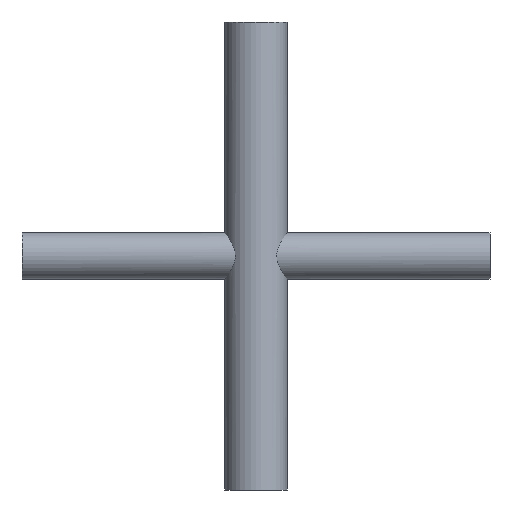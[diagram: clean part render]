
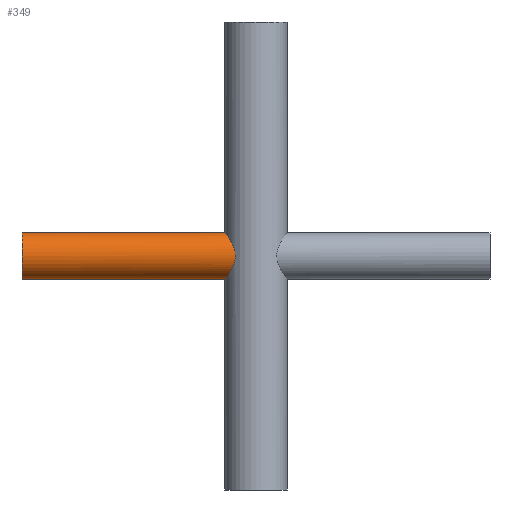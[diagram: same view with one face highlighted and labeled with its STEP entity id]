
A CAD part, front view. The second image highlights one B-rep face of the part: STEP entity #349.
In plain terms, the highlighted cylindrical face has radius 4.763 mm (diameter 9.525 mm), a partial arc.
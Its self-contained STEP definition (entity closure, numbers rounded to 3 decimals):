
#19 = CARTESIAN_POINT ( 'NONE',  ( -4.274, -4.696, -0.807 ) ) ;
#25 = CARTESIAN_POINT ( 'NONE',  ( -5.865, -2.449, -4.096 ) ) ;
#33 = CARTESIAN_POINT ( 'NONE',  ( -5.1, -3.789, -2.901 ) ) ;
#65 = ORIENTED_EDGE ( 'NONE', *, *, #279, .F. ) ;
#76 = CARTESIAN_POINT ( 'NONE',  ( -6.324, -0.655, -4.728 ) ) ;
#77 = CARTESIAN_POINT ( 'NONE',  ( -5.974, -2.174, -4.249 ) ) ;
#93 = CARTESIAN_POINT ( 'NONE',  ( -6.227, -1.283, 4.598 ) ) ;
#130 = CARTESIAN_POINT ( 'NONE',  ( -4.246, -4.721, -0.645 ) ) ;
#143 = CARTESIAN_POINT ( 'NONE',  ( -4.836, -4.121, -2.407 ) ) ;
#144 = EDGE_CURVE ( 'NONE', #763, #548, #508, .T. ) ;
#146 = CARTESIAN_POINT ( 'NONE',  ( -4.241, -4.727, 0.659 ) ) ;
#148 = CYLINDRICAL_SURFACE ( 'NONE', #418, 4.763 ) ;
#149 = DIRECTION ( 'NONE',  ( 1., 0., 0. ) ) ;
#152 = CARTESIAN_POINT ( 'NONE',  ( -6.154, -1.593, 4.499 ) ) ;
#155 = CARTESIAN_POINT ( 'NONE',  ( -47.625, 0., -4.763 ) ) ;
#160 = LINE ( 'NONE', #155, #648 ) ;
#186 = CARTESIAN_POINT ( 'NONE',  ( -6.153, -1.598, -4.497 ) ) ;
#188 = CARTESIAN_POINT ( 'NONE',  ( -6.35, 0., -4.763 ) ) ;
#194 = CARTESIAN_POINT ( 'NONE',  ( -5.102, -3.786, 2.904 ) ) ;
#199 = CARTESIAN_POINT ( 'NONE',  ( -4.2, -4.763, -0.159 ) ) ;
#205 = DIRECTION ( 'NONE',  ( 1., 0., 0. ) ) ;
#260 = EDGE_LOOP ( 'NONE', ( #706, #764, #424, #65 ) ) ;
#261 = CARTESIAN_POINT ( 'NONE',  ( -47.625, 0., 4.763 ) ) ;
#279 = EDGE_CURVE ( 'NONE', #699, #415, #382, .T. ) ;
#293 = DIRECTION ( 'NONE',  ( 1., 0., 0. ) ) ;
#304 = CARTESIAN_POINT ( 'NONE',  ( -5.503, -3.179, -3.559 ) ) ;
#321 = CARTESIAN_POINT ( 'NONE',  ( -6.35, 0., 4.763 ) ) ;
#322 = FACE_OUTER_BOUND ( 'NONE', #260, .T. ) ;
#328 = CARTESIAN_POINT ( 'NONE',  ( -4.539, -4.442, 1.726 ) ) ;
#331 = CARTESIAN_POINT ( 'NONE',  ( -4.389, -4.59, 1.28 ) ) ;
#349 = ADVANCED_FACE ( 'NONE', ( #322 ), #148, .T. ) ;
#367 = DIRECTION ( 'NONE',  ( 1., 0., 0. ) ) ;
#370 = CARTESIAN_POINT ( 'NONE',  ( -4.209, -4.754, -0.321 ) ) ;
#372 = CARTESIAN_POINT ( 'NONE',  ( -5.63, -2.95, -3.751 ) ) ;
#379 = CARTESIAN_POINT ( 'NONE',  ( -4.346, -4.63, 1.127 ) ) ;
#382 = B_SPLINE_CURVE_WITH_KNOTS ( 'NONE', 3,
 ( #321, #396, #532, #93, #152, #394, #528, #791, #716, #590, #194, #582, #728, #328, #794, #331, #379, #146, #653, #199, #370, #130, #19, #451, #651, #518, #143, #33, #392, #304, #372, #25, #77, #186, #459, #76, #521, #602 ),
 .UNSPECIFIED., .F., .F.,
 ( 4, 2, 2, 2, 2, 2, 2, 2, 2, 2, 2, 2, 2, 2, 2, 2, 2, 2, 4 ),
 ( 0., 0.001, 0.002, 0.003, 0.004, 0.005, 0.006, 0.006, 0.007, 0.008, 0.008, 0.009, 0.01, 0.011, 0.012, 0.013, 0.014, 0.015, 0.016 ),
 .UNSPECIFIED. ) ;
#392 = CARTESIAN_POINT ( 'NONE',  ( -5.238, -3.598, -3.134 ) ) ;
#393 = CARTESIAN_POINT ( 'NONE',  ( -47.625, 0., 0. ) ) ;
#394 = CARTESIAN_POINT ( 'NONE',  ( -5.976, -2.169, 4.252 ) ) ;
#396 = CARTESIAN_POINT ( 'NONE',  ( -6.35, -0.33, 4.763 ) ) ;
#405 = EDGE_CURVE ( 'NONE', #763, #699, #657, .T. ) ;
#415 = VERTEX_POINT ( 'NONE', #188 ) ;
#418 = AXIS2_PLACEMENT_3D ( 'NONE', #455, #149, #587 ) ;
#424 = ORIENTED_EDGE ( 'NONE', *, *, #672, .T. ) ;
#451 = CARTESIAN_POINT ( 'NONE',  ( -4.379, -4.599, -1.277 ) ) ;
#455 = CARTESIAN_POINT ( 'NONE',  ( -47.625, 0., 0. ) ) ;
#457 = VECTOR ( 'NONE', #367, 1000. ) ;
#459 = CARTESIAN_POINT ( 'NONE',  ( -6.225, -1.293, -4.595 ) ) ;
#497 = CARTESIAN_POINT ( 'NONE',  ( -6.35, 0., 4.763 ) ) ;
#508 = CIRCLE ( 'NONE', #696, 4.763 ) ;
#518 = CARTESIAN_POINT ( 'NONE',  ( -4.708, -4.264, -2.144 ) ) ;
#521 = CARTESIAN_POINT ( 'NONE',  ( -6.35, -0.331, -4.763 ) ) ;
#528 = CARTESIAN_POINT ( 'NONE',  ( -5.869, -2.441, 4.101 ) ) ;
#532 = CARTESIAN_POINT ( 'NONE',  ( -6.324, -0.653, 4.729 ) ) ;
#548 = VERTEX_POINT ( 'NONE', #797 ) ;
#581 = CARTESIAN_POINT ( 'NONE',  ( -47.625, 0., 4.763 ) ) ;
#582 = CARTESIAN_POINT ( 'NONE',  ( -4.838, -4.118, 2.411 ) ) ;
#587 = DIRECTION ( 'NONE',  ( 0., 0., -1. ) ) ;
#590 = CARTESIAN_POINT ( 'NONE',  ( -5.24, -3.596, 3.137 ) ) ;
#602 = CARTESIAN_POINT ( 'NONE',  ( -6.35, 0., -4.763 ) ) ;
#648 = VECTOR ( 'NONE', #293, 1000. ) ;
#651 = CARTESIAN_POINT ( 'NONE',  ( -4.479, -4.504, -1.578 ) ) ;
#653 = CARTESIAN_POINT ( 'NONE',  ( -4.2, -4.762, 0.329 ) ) ;
#657 = LINE ( 'NONE', #261, #457 ) ;
#672 = EDGE_CURVE ( 'NONE', #548, #415, #160, .T. ) ;
#696 = AXIS2_PLACEMENT_3D ( 'NONE', #393, #205, #793 ) ;
#699 = VERTEX_POINT ( 'NONE', #497 ) ;
#706 = ORIENTED_EDGE ( 'NONE', *, *, #405, .F. ) ;
#716 = CARTESIAN_POINT ( 'NONE',  ( -5.505, -3.176, 3.562 ) ) ;
#728 = CARTESIAN_POINT ( 'NONE',  ( -4.711, -4.261, 2.148 ) ) ;
#763 = VERTEX_POINT ( 'NONE', #581 ) ;
#764 = ORIENTED_EDGE ( 'NONE', *, *, #144, .T. ) ;
#791 = CARTESIAN_POINT ( 'NONE',  ( -5.632, -2.946, 3.755 ) ) ;
#793 = DIRECTION ( 'NONE',  ( 0., 0., -1. ) ) ;
#794 = CARTESIAN_POINT ( 'NONE',  ( -4.485, -4.496, 1.579 ) ) ;
#797 = CARTESIAN_POINT ( 'NONE',  ( -47.625, 0., -4.763 ) ) ;
